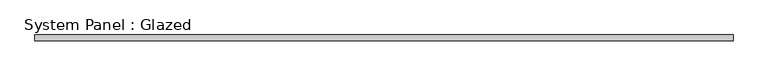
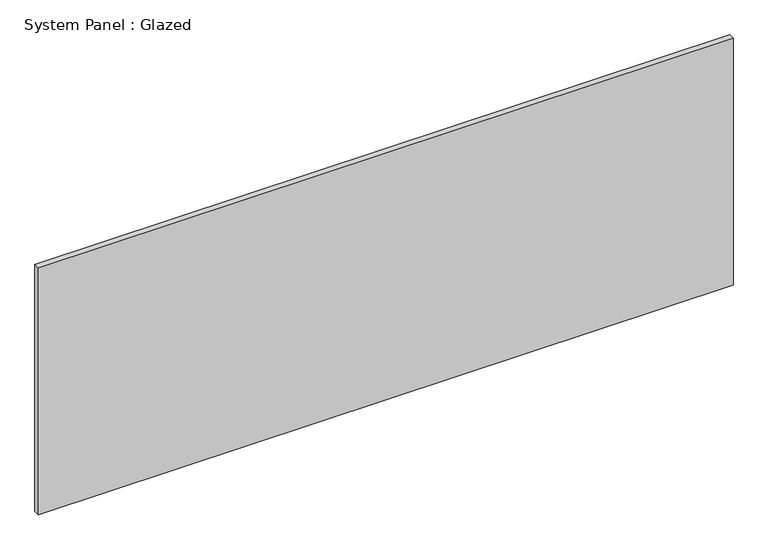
"""IFC4 building model written with IfcOpenShell, lengths in millimetres: plate geometry, System Panel : Glazed."""

from ifc_helpers import new_model, si_unit, origin, origin_with_axes, place, context, project, spatial, polyline, outline, extrude, source, transform, mapped, element, save


def system_panel_glazed_42406b18(model_context):
    return source(origin(), model_context, "Body", "SweptSolid", [
        extrude(outline(polyline([(1462.5, 24.5), (-1462.5, 24.5), (-1462.5, 49.5), (1462.5, 49.5), (1462.5, 24.5)])), origin_with_axes(), (0.0, 0.0, 1.0), 1098.2453384),
    ])


if __name__ == "__main__":
    model = new_model("IFC4")
    model_context = context("Model", 3, world=origin())
    ifc_project = project(units=[si_unit("LENGTHUNIT", "METRE", prefix="MILLI")], contexts=[model_context])
    site = spatial("IfcSite", under=ifc_project)
    building = spatial("IfcBuilding", under=site)
    placement = place(None, origin())
    system_panel_glazed_shape = system_panel_glazed_42406b18(model_context)
    element("IfcPlate", 1, ObjectType="System Panel : Glazed", at=placement, inside=building, context=model_context, shape_type="MappedRepresentation", body=[
        mapped(system_panel_glazed_shape, transform((0.0, 0.0, 0.0), x_axis=(1.0, 0.0, 0.0), y_axis=(0.0, 1.0, 0.0), z_axis=(0.0, 0.0, 1.0))),
    ])
    save(model, "model.ifc")
